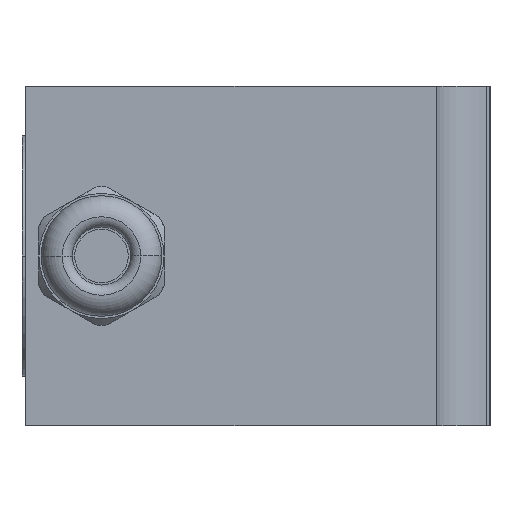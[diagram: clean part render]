
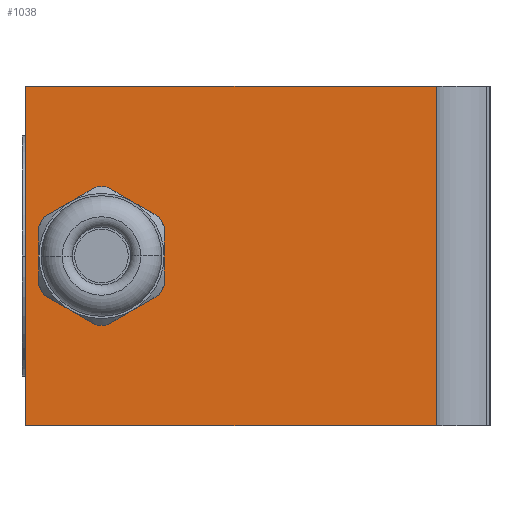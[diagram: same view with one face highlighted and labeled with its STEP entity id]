
A CAD part, left-side view. The second image highlights one B-rep face of the part: STEP entity #1038.
In plain terms, the highlighted planar face has unit normal (-1, 0, 0).
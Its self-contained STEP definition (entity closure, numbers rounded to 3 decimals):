
#39=DIRECTION('',(0.,-1.,0.));
#40=VECTOR('',#39,46.);
#41=CARTESIAN_POINT('',(-78.,26.,-19.));
#42=LINE('',#41,#40);
#144=DIRECTION('',(0.,0.,1.));
#145=VECTOR('',#144,38.);
#146=CARTESIAN_POINT('',(-78.,-20.,-19.));
#147=LINE('',#146,#145);
#148=DIRECTION('',(0.,0.,1.));
#149=VECTOR('',#148,38.);
#150=CARTESIAN_POINT('',(-78.,26.,-19.));
#151=LINE('',#150,#149);
#152=CARTESIAN_POINT('',(-78.,17.5,0.));
#153=DIRECTION('',(-1.,0.,0.));
#154=DIRECTION('',(0.,1.,0.));
#155=AXIS2_PLACEMENT_3D('',#152,#153,#154);
#157=CARTESIAN_POINT('',(-78.,17.5,0.));
#158=DIRECTION('',(-1.,0.,0.));
#159=DIRECTION('',(0.,-1.,0.));
#160=AXIS2_PLACEMENT_3D('',#157,#158,#159);
#201=DIRECTION('',(0.,-1.,0.));
#202=VECTOR('',#201,46.);
#203=CARTESIAN_POINT('',(-78.,26.,19.));
#204=LINE('',#203,#202);
#645=CARTESIAN_POINT('',(-78.,26.,-19.));
#646=CARTESIAN_POINT('',(-78.,26.,19.));
#647=VERTEX_POINT('',#645);
#648=VERTEX_POINT('',#646);
#712=CARTESIAN_POINT('',(-78.,22.,0.));
#714=VERTEX_POINT('',#712);
#716=CARTESIAN_POINT('',(-78.,13.,0.));
#718=VERTEX_POINT('',#716);
#731=CARTESIAN_POINT('',(-78.,-20.,-19.));
#732=CARTESIAN_POINT('',(-78.,-20.,19.));
#733=VERTEX_POINT('',#731);
#734=VERTEX_POINT('',#732);
#1019=CARTESIAN_POINT('',(-78.,26.,-19.));
#1020=DIRECTION('',(-1.,0.,0.));
#1021=DIRECTION('',(0.,-1.,0.));
#1022=AXIS2_PLACEMENT_3D('',#1019,#1020,#1021);
#1023=PLANE('',#1022);
#1024=ORIENTED_EDGE('',*,*,#895,.F.);
#1025=ORIENTED_EDGE('',*,*,#835,.F.);
#1027=ORIENTED_EDGE('',*,*,#1026,.T.);
#1029=ORIENTED_EDGE('',*,*,#1028,.T.);
#1030=EDGE_LOOP('',(#1024,#1025,#1027,#1029));
#1031=FACE_OUTER_BOUND('',#1030,.F.);
#1033=ORIENTED_EDGE('',*,*,#1032,.T.);
#1035=ORIENTED_EDGE('',*,*,#1034,.T.);
#1036=EDGE_LOOP('',(#1033,#1035));
#1037=FACE_BOUND('',#1036,.F.);
#1038=ADVANCED_FACE('',(#1031,#1037),#1023,.T.);
#156=CIRCLE('',#155,4.5);
#161=CIRCLE('',#160,4.5);
#835=EDGE_CURVE('',#647,#733,#42,.T.);
#895=EDGE_CURVE('',#733,#734,#147,.T.);
#1026=EDGE_CURVE('',#647,#648,#151,.T.);
#1028=EDGE_CURVE('',#648,#734,#204,.T.);
#1032=EDGE_CURVE('',#714,#718,#156,.T.);
#1034=EDGE_CURVE('',#718,#714,#161,.T.);
